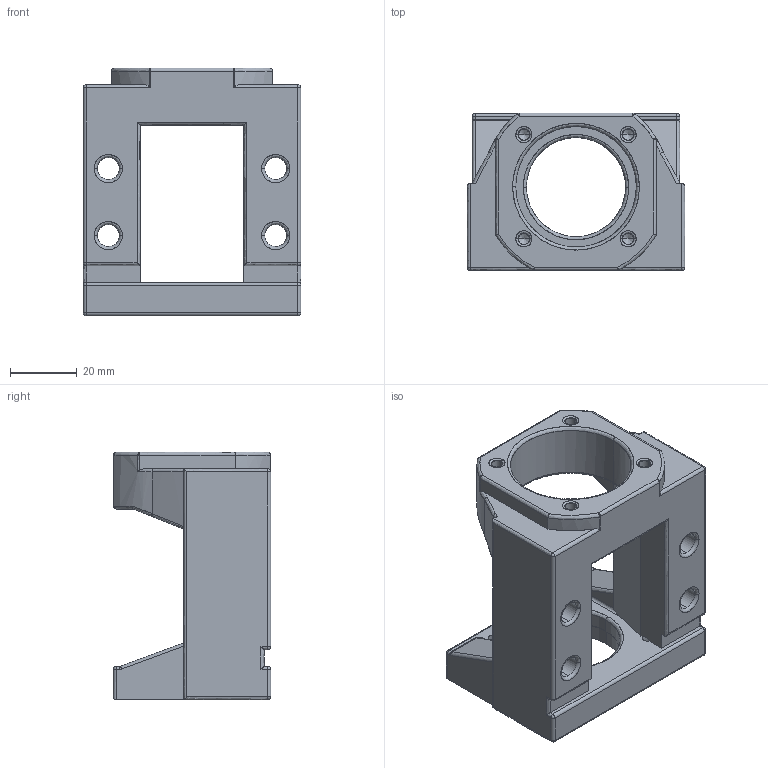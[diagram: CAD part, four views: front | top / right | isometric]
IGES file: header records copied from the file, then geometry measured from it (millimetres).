
Start section: SolidWorks IGES file using analytic representation for surfaces
Global section: file name: C:\Users\117\Desktop\1061208網站3D圖檔問題處理\傳動座\外露型\MBA\MBA12-B.IGS,15HSolidWorks; native system: 2017; preprocessor: SolidWorks 2017; author: 117; date: 171228.135743; units: millimetre
Bounding box: 65 x 47 x 74 mm (x, y, z)
Surface area: 25027.6 mm2 (no closed solid volume)
Topology: 0 solids, 0 shells, 228 faces, 2709 edges, 2679 vertices
Faces by surface type: revolution 144, bspline 84
